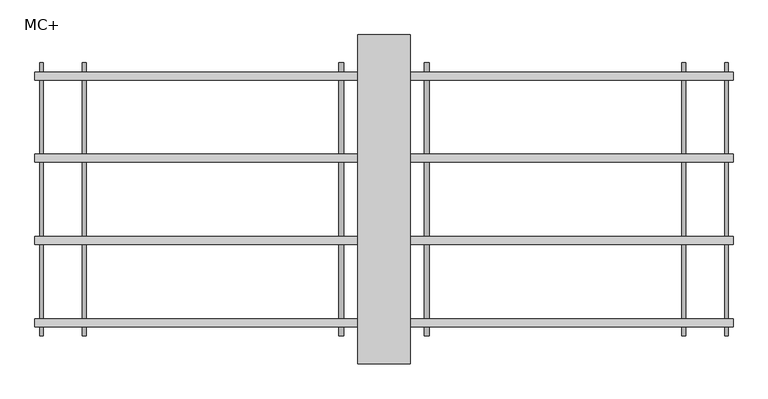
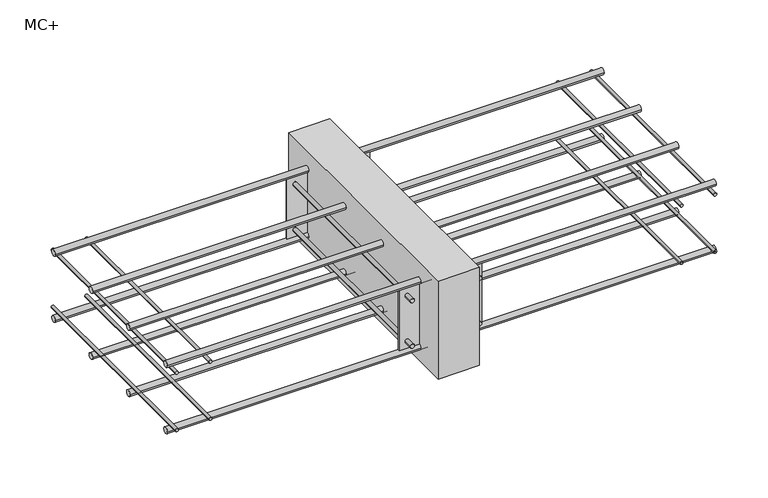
"""IFC4 building model written with IfcOpenShell, lengths in millimetres: proxy geometry, ACINOXplus_Typenreihe_M : MC+."""

import ifcopenshell
import ifcopenshell.guid

model = None  # the IFC model being written
_history = None  # IfcOwnerHistory: only IFC2X3 demands one
_inside = {}  # id of a spatial element -> (the spatial element, [elements in it])
_under = {}  # id of a project, library or spatial element -> (it, [spatial elements below it])
_declared = {}  # id of a project -> (the project, [libraries it declares])
_typed = {}  # id of a type object -> (the type object, [elements of that type])
_made_of = {}  # id of a material, layer set ... -> (it, [elements and type objects made of it])


def new_model(schema):
    """Start an empty IFC model of exactly this schema.

    Asked for "IFC4X3", IfcOpenShell would pick the latest addendum, in which some entities
    have other attributes; the version numbers below select the first issue.
    IFC2X3 requires an IfcOwnerHistory on every rooted entity: one is made here for all.
    """
    global model, _history
    if schema == "IFC4X3":
        model = ifcopenshell.file(schema_version=(4, 3, 0, 0))
    else:
        model = ifcopenshell.file(schema=schema)
    _inside.clear()
    _under.clear()
    _declared.clear()
    _typed.clear()
    _made_of.clear()
    _history = None
    if model.schema == "IFC2X3":
        org = make("IfcOrganization", Name="unknown")
        user = make(
            "IfcPersonAndOrganization",
            ThePerson=make("IfcPerson", FamilyName="unknown"),
            TheOrganization=org,
        )
        app = make(
            "IfcApplication",
            ApplicationDeveloper=org,
            Version="unknown",
            ApplicationFullName="unknown",
            ApplicationIdentifier="unknown",
        )
        _history = make(
            "IfcOwnerHistory",
            OwningUser=user,
            OwningApplication=app,
            ChangeAction="ADDED",
            CreationDate=0,
        )
    return model


def make(cls, **values):
    """One entity of the class cls with the attributes given. An attribute that is None is left unset."""
    return model.create_entity(
        cls, **{name: value for name, value in values.items() if value is not None}
    )


def rooted(cls, **values):
    """An entity with a GlobalId (a new one), such as an element, a storey or a relation."""
    return make(cls, GlobalId=ifcopenshell.guid.new(), OwnerHistory=_history, **values)


def si_unit(unit_type, name, prefix=None):
    """IfcSIUnit, for example si_unit("LENGTHUNIT", "METRE", prefix="MILLI")."""
    return make("IfcSIUnit", UnitType=unit_type, Prefix=prefix, Name=name)


def assignment(units):
    """IfcUnitAssignment: the units of a project."""
    return None if units is None else make("IfcUnitAssignment", Units=units)


def point(xyz):
    """IfcCartesianPoint."""
    return None if xyz is None else make("IfcCartesianPoint", Coordinates=xyz)


def direction(xyz):
    """IfcDirection."""
    return None if xyz is None else make("IfcDirection", DirectionRatios=xyz)


def frame(location, z_axis=None, x_axis=None):
    """IfcAxis2Placement3D, a coordinate frame: its origin and axes. An axis left out is left unset."""
    return make(
        "IfcAxis2Placement3D",
        Location=point(location),
        Axis=direction(z_axis),
        RefDirection=direction(x_axis),
    )


def frame_2d(location, x_axis=None):
    """IfcAxis2Placement2D, a coordinate frame in the plane: its origin and x axis."""
    return make(
        "IfcAxis2Placement2D", Location=point(location), RefDirection=direction(x_axis)
    )


def origin():
    """The frame at (0, 0, 0) with its axes left unset."""
    return frame((0.0, 0.0, 0.0))


def place(relative_to, where):
    """IfcLocalPlacement: puts the frame where relative to a parent placement (None: the world)."""
    return make(
        "IfcLocalPlacement", PlacementRelTo=relative_to, RelativePlacement=where
    )


def context(
    kind, dimensions, precision=None, world=None, true_north=None, identifier=None
):
    """IfcGeometricRepresentationContext, for example the 3D "Model" context."""
    return make(
        "IfcGeometricRepresentationContext",
        ContextIdentifier=identifier,
        ContextType=kind,
        CoordinateSpaceDimension=dimensions,
        Precision=precision,
        WorldCoordinateSystem=world,
        TrueNorth=true_north,
    )


def project(units=None, contexts=None):
    """IfcProject with its units and contexts."""
    return rooted(
        "IfcProject",
        Name="project",
        RepresentationContexts=contexts,
        UnitsInContext=assignment(units),
    )


def spatial(cls, under=None, at=None, **own):
    """A site, building, storey or space (cls), placed at a placement, below another one or the project."""
    s = rooted(cls, ObjectPlacement=at, **own)
    if under is not None:
        _under.setdefault(under.id(), (under, []))[1].append(s)
    return s


def polyline(points):
    """IfcPolyline through the points."""
    return make("IfcPolyline", Points=[point(p) for p in points])


def circle_curve(where, radius):
    """IfcCircle in the frame where."""
    return make("IfcCircle", Position=where, Radius=radius)


def trimmed(basis, trim1, trim2, sense, master):
    """IfcTrimmedCurve: the piece of a basis curve between two trims."""
    return make(
        "IfcTrimmedCurve",
        BasisCurve=basis,
        Trim1=trim1,
        Trim2=trim2,
        SenseAgreement=sense,
        MasterRepresentation=master,
    )


def segment(curve, same_sense, transition):
    """IfcCompositeCurveSegment."""
    return make(
        "IfcCompositeCurveSegment",
        Transition=transition,
        SameSense=same_sense,
        ParentCurve=curve,
    )


def composite_curve(segments, self_intersect=None):
    """IfcCompositeCurve: segments joined end to end."""
    return make("IfcCompositeCurve", Segments=segments, SelfIntersect=self_intersect)


def outline(outer, holes=None, kind="AREA"):
    """IfcArbitraryClosedProfileDef: a profile drawn as a closed curve; with holes, ...WithVoids."""
    if holes is None:
        return make("IfcArbitraryClosedProfileDef", ProfileType=kind, OuterCurve=outer)
    return make(
        "IfcArbitraryProfileDefWithVoids",
        ProfileType=kind,
        OuterCurve=outer,
        InnerCurves=holes,
    )


def extrude(swept, where, along, depth):
    """IfcExtrudedAreaSolid: the profile swept, set in the frame where, extruded along a direction by depth."""
    return make(
        "IfcExtrudedAreaSolid",
        SweptArea=swept,
        Position=where,
        ExtrudedDirection=direction(along),
        Depth=depth,
    )


def shape(context_of_items, identifier, shape_type, items):
    """IfcShapeRepresentation: the items that make up one representation, for example the "Body"."""
    return make(
        "IfcShapeRepresentation",
        ContextOfItems=context_of_items,
        RepresentationIdentifier=identifier,
        RepresentationType=shape_type,
        Items=items,
    )


def source(mapping_origin, context_of_items, identifier, shape_type, items):
    """IfcRepresentationMap: a shape defined once, which mapped items show again and again."""
    return make(
        "IfcRepresentationMap",
        MappingOrigin=mapping_origin,
        MappedRepresentation=shape(context_of_items, identifier, shape_type, items),
    )


def transform(
    local_origin,
    x_axis=None,
    y_axis=None,
    z_axis=None,
    scale=None,
    scale2=None,
    scale3=None,
    uniform=True,
):
    """IfcCartesianTransformationOperator3D, or its non-uniform kind. x_axis, y_axis, z_axis: its Axis1, 2, 3."""
    if uniform:
        return make(
            "IfcCartesianTransformationOperator3D",
            Axis1=direction(x_axis),
            Axis2=direction(y_axis),
            LocalOrigin=point(local_origin),
            Scale=scale,
            Axis3=direction(z_axis),
        )
    return make(
        "IfcCartesianTransformationOperator3DnonUniform",
        Axis1=direction(x_axis),
        Axis2=direction(y_axis),
        LocalOrigin=point(local_origin),
        Scale=scale,
        Axis3=direction(z_axis),
        Scale2=scale2,
        Scale3=scale3,
    )


def mapped(mapping_source, mapping_target):
    """IfcMappedItem: shows the shape of a source again, moved by a transform."""
    return make(
        "IfcMappedItem", MappingSource=mapping_source, MappingTarget=mapping_target
    )


def made_of(thing, what):
    """Note that an element or type object is made of a material, layer set ...; save() writes the relation."""
    if what is not None:
        _made_of.setdefault(what.id(), (what, []))[1].append(thing)
    return thing


def element(
    cls,
    number,
    at=None,
    inside=None,
    cuts=None,
    type_object=None,
    material=None,
    context=None,
    identifier="Body",
    shape_type=None,
    held_by="IfcProductDefinitionShape",
    body=None,
    shapes=None,
    **own,
):
    """One element of the class cls, such as IfcWall. Its Tag is "e" and its number.

    at: its placement. inside: the storey or other place that contains it. cuts: it is an
    opening in that element (IfcRelVoidsElement). A single representation is given by context,
    identifier, shape_type and body (its items); several are given by shapes. held_by: the class
    of the entity that holds the representations. save() writes the other relations.
    """
    e = rooted(cls, Tag="e%d" % number, ObjectPlacement=at, **own)
    if body is not None:
        shapes = [shape(context, identifier, shape_type, body)]
    if shapes is not None:
        e.Representation = make(held_by, Representations=shapes)
    if inside is not None:
        _inside.setdefault(inside.id(), (inside, []))[1].append(e)
    if cuts is not None:
        rooted(
            "IfcRelVoidsElement", RelatingBuildingElement=cuts, RelatedOpeningElement=e
        )
    if type_object is not None:
        _typed.setdefault(type_object.id(), (type_object, []))[1].append(e)
    return made_of(e, material)


def aggregate(whole, parts):
    """IfcRelAggregates: a whole, such as a stair, and the parts it consists of."""
    return rooted("IfcRelAggregates", RelatingObject=whole, RelatedObjects=parts)


def save(model, path):
    """Write the relations noted so far, then the file.

    IfcRelAggregates (storeys below a building ...), IfcRelContainedInSpatialStructure (elements
    in a storey), IfcRelDefinesByType, IfcRelAssociatesMaterial and IfcRelDeclares: one each for
    every whole, place, type object, material and project.
    """
    for whole, parts in _under.values():
        aggregate(whole, parts)
    for where, things in _inside.values():
        rooted(
            "IfcRelContainedInSpatialStructure",
            RelatedElements=things,
            RelatingStructure=where,
        )
    for kind, things in _typed.values():
        rooted("IfcRelDefinesByType", RelatedObjects=things, RelatingType=kind)
    for what, things in _made_of.values():
        rooted("IfcRelAssociatesMaterial", RelatedObjects=things, RelatingMaterial=what)
    for by, libraries in _declared.values():
        rooted("IfcRelDeclares", RelatingContext=by, RelatedDefinitions=libraries)
    model.write(path)


def mc_d7af227e(model_context):
    return source(origin(), model_context, "Body", "SweptSolid", [
        extrude(outline(polyline([(40.0, 250.0), (40.0, -250.0), (-40.0, -250.0), (-40.0, 250.0), (40.0, 250.0)])), frame((0.0, 0.0, -200.0), z_axis=(0.0, 0.0, 1.0), x_axis=(1.0, 0.0, 0.0)), (0.0, 0.0, 1.0), 200.0),
        extrude(outline(polyline([(80.0, -186.0), (80.0, -189.0), (-80.0, -189.0), (-80.0, -186.0), (80.0, -186.0)])), frame((0.0, 0.0, -165.0), z_axis=(0.0, 0.0, 1.0), x_axis=(1.0, 0.0, 0.0)), (0.0, 0.0, 1.0), 123.0),
        extrude(outline(polyline([(80.0, 189.0), (80.0, 186.0), (-80.0, 186.0), (-80.0, 189.0), (80.0, 189.0)])), frame((0.0, 0.0, -165.0), z_axis=(0.0, 0.0, 1.0), x_axis=(1.0, 0.0, 0.0)), (0.0, 0.0, 1.0), 123.0),
        extrude(outline(composite_curve([segment(trimmed(circle_curve(frame_2d((-150.0, -65.0)), 4.0), [point((-150.0, -69.0))], [point((-150.0, -61.0))], False, "CARTESIAN"), True, "CONTINUOUS"), segment(trimmed(circle_curve(frame_2d((-150.0, -65.0)), 4.0), [point((-150.0, -61.0))], [point((-150.0, -69.0))], False, "CARTESIAN"), True, "CONTINUOUS")], self_intersect=False)), frame((0.0, 189.0, 0.0), z_axis=(0.0, 1.0, 0.0), x_axis=(0.0, 0.0, 1.0)), (0.0, 0.0, 1.0), 18.5),
        extrude(outline(composite_curve([segment(trimmed(circle_curve(frame_2d((-150.0, -65.0)), 4.0), [point((-150.0, -61.0))], [point((-150.0, -69.0))], False, "CARTESIAN"), True, "CONTINUOUS"), segment(trimmed(circle_curve(frame_2d((-150.0, -65.0)), 4.0), [point((-150.0, -69.0))], [point((-150.0, -61.0))], False, "CARTESIAN"), True, "CONTINUOUS")], self_intersect=False)), frame((0.0, -207.5, 0.0), z_axis=(0.0, 1.0, 0.0), x_axis=(0.0, 0.0, 1.0)), (0.0, 0.0, 1.0), 18.5),
        extrude(outline(composite_curve([segment(trimmed(circle_curve(frame_2d((-150.0, -65.0)), 4.0), [point((-150.0, -69.0))], [point((-150.0, -61.0))], False, "CARTESIAN"), True, "CONTINUOUS"), segment(trimmed(circle_curve(frame_2d((-150.0, -65.0)), 4.0), [point((-150.0, -61.0))], [point((-150.0, -69.0))], False, "CARTESIAN"), True, "CONTINUOUS")], self_intersect=False)), frame((0.0, -186.0, 0.0), z_axis=(0.0, 1.0, 0.0), x_axis=(0.0, 0.0, 1.0)), (0.0, 0.0, 1.0), 372.0),
        extrude(outline(composite_curve([segment(trimmed(circle_curve(frame_2d((-150.0, 65.0)), 4.0), [point((-150.0, 61.0))], [point((-150.0, 69.0))], False, "CARTESIAN"), True, "CONTINUOUS"), segment(trimmed(circle_curve(frame_2d((-150.0, 65.0)), 4.0), [point((-150.0, 69.0))], [point((-150.0, 61.0))], False, "CARTESIAN"), True, "CONTINUOUS")], self_intersect=False)), frame((0.0, 189.0, 0.0), z_axis=(0.0, 1.0, 0.0), x_axis=(0.0, 0.0, 1.0)), (0.0, 0.0, 1.0), 18.5),
        extrude(outline(composite_curve([segment(trimmed(circle_curve(frame_2d((-150.0, 65.0)), 4.0), [point((-150.0, 69.0))], [point((-150.0, 61.0))], False, "CARTESIAN"), True, "CONTINUOUS"), segment(trimmed(circle_curve(frame_2d((-150.0, 65.0)), 4.0), [point((-150.0, 61.0))], [point((-150.0, 69.0))], False, "CARTESIAN"), True, "CONTINUOUS")], self_intersect=False)), frame((0.0, -207.5, 0.0), z_axis=(0.0, 1.0, 0.0), x_axis=(0.0, 0.0, 1.0)), (0.0, 0.0, 1.0), 18.5),
        extrude(outline(composite_curve([segment(trimmed(circle_curve(frame_2d((-150.0, 65.0)), 4.0), [point((-150.0, 61.0))], [point((-150.0, 69.0))], False, "CARTESIAN"), True, "CONTINUOUS"), segment(trimmed(circle_curve(frame_2d((-150.0, 65.0)), 4.0), [point((-150.0, 69.0))], [point((-150.0, 61.0))], False, "CARTESIAN"), True, "CONTINUOUS")], self_intersect=False)), frame((0.0, -186.0, 0.0), z_axis=(0.0, 1.0, 0.0), x_axis=(0.0, 0.0, 1.0)), (0.0, 0.0, 1.0), 372.0),
        extrude(outline(composite_curve([segment(trimmed(circle_curve(frame_2d((-57.0, -65.0)), 4.0), [point((-57.0, -69.0))], [point((-57.0, -61.0))], False, "CARTESIAN"), True, "CONTINUOUS"), segment(trimmed(circle_curve(frame_2d((-57.0, -65.0)), 4.0), [point((-57.0, -61.0))], [point((-57.0, -69.0))], False, "CARTESIAN"), True, "CONTINUOUS")], self_intersect=False)), frame((0.0, 189.0, 0.0), z_axis=(0.0, 1.0, 0.0), x_axis=(0.0, 0.0, 1.0)), (0.0, 0.0, 1.0), 18.5),
        extrude(outline(composite_curve([segment(trimmed(circle_curve(frame_2d((-57.0, -65.0)), 4.0), [point((-57.0, -61.0))], [point((-57.0, -69.0))], False, "CARTESIAN"), True, "CONTINUOUS"), segment(trimmed(circle_curve(frame_2d((-57.0, -65.0)), 4.0), [point((-57.0, -69.0))], [point((-57.0, -61.0))], False, "CARTESIAN"), True, "CONTINUOUS")], self_intersect=False)), frame((0.0, -207.5, 0.0), z_axis=(0.0, 1.0, 0.0), x_axis=(0.0, 0.0, 1.0)), (0.0, 0.0, 1.0), 18.5),
        extrude(outline(composite_curve([segment(trimmed(circle_curve(frame_2d((-57.0, -65.0)), 4.0), [point((-57.0, -69.0))], [point((-57.0, -61.0))], False, "CARTESIAN"), True, "CONTINUOUS"), segment(trimmed(circle_curve(frame_2d((-57.0, -65.0)), 4.0), [point((-57.0, -61.0))], [point((-57.0, -69.0))], False, "CARTESIAN"), True, "CONTINUOUS")], self_intersect=False)), frame((0.0, -186.0, 0.0), z_axis=(0.0, 1.0, 0.0), x_axis=(0.0, 0.0, 1.0)), (0.0, 0.0, 1.0), 372.0),
        extrude(outline(composite_curve([segment(trimmed(circle_curve(frame_2d((-57.0, 65.0)), 4.0), [point((-57.0, 61.0))], [point((-57.0, 69.0))], False, "CARTESIAN"), True, "CONTINUOUS"), segment(trimmed(circle_curve(frame_2d((-57.0, 65.0)), 4.0), [point((-57.0, 69.0))], [point((-57.0, 61.0))], False, "CARTESIAN"), True, "CONTINUOUS")], self_intersect=False)), frame((0.0, 189.0, 0.0), z_axis=(0.0, 1.0, 0.0), x_axis=(0.0, 0.0, 1.0)), (0.0, 0.0, 1.0), 18.5),
        extrude(outline(composite_curve([segment(trimmed(circle_curve(frame_2d((-57.0, 65.0)), 4.0), [point((-57.0, 69.0))], [point((-57.0, 61.0))], False, "CARTESIAN"), True, "CONTINUOUS"), segment(trimmed(circle_curve(frame_2d((-57.0, 65.0)), 4.0), [point((-57.0, 61.0))], [point((-57.0, 69.0))], False, "CARTESIAN"), True, "CONTINUOUS")], self_intersect=False)), frame((0.0, -207.5, 0.0), z_axis=(0.0, 1.0, 0.0), x_axis=(0.0, 0.0, 1.0)), (0.0, 0.0, 1.0), 18.5),
        extrude(outline(composite_curve([segment(trimmed(circle_curve(frame_2d((-57.0, 65.0)), 4.0), [point((-57.0, 61.0))], [point((-57.0, 69.0))], False, "CARTESIAN"), True, "CONTINUOUS"), segment(trimmed(circle_curve(frame_2d((-57.0, 65.0)), 4.0), [point((-57.0, 69.0))], [point((-57.0, 61.0))], False, "CARTESIAN"), True, "CONTINUOUS")], self_intersect=False)), frame((0.0, -186.0, 0.0), z_axis=(0.0, 1.0, 0.0), x_axis=(0.0, 0.0, 1.0)), (0.0, 0.0, 1.0), 372.0),
        extrude(outline(composite_curve([segment(trimmed(circle_curve(frame_2d((62.5, -171.0)), 6.0), [point((56.5, -171.0))], [point((68.5, -171.0))], False, "CARTESIAN"), True, "CONTINUOUS"), segment(trimmed(circle_curve(frame_2d((62.5, -171.0)), 6.0), [point((68.5, -171.0))], [point((56.5, -171.0))], False, "CARTESIAN"), True, "CONTINUOUS")], self_intersect=False)), frame((-530.0, 0.0, 0.0), z_axis=(1.0, 0.0, 0.0), x_axis=(0.0, 1.0, 0.0)), (0.0, 0.0, 1.0), 1060.0),
        extrude(outline(composite_curve([segment(trimmed(circle_curve(frame_2d((187.5, -171.0)), 6.0), [point((181.5, -171.0))], [point((193.5, -171.0))], False, "CARTESIAN"), True, "CONTINUOUS"), segment(trimmed(circle_curve(frame_2d((187.5, -171.0)), 6.0), [point((193.5, -171.0))], [point((181.5, -171.0))], False, "CARTESIAN"), True, "CONTINUOUS")], self_intersect=False)), frame((-530.0, 0.0, 0.0), z_axis=(1.0, 0.0, 0.0), x_axis=(0.0, 1.0, 0.0)), (0.0, 0.0, 1.0), 1060.0),
        extrude(outline(composite_curve([segment(trimmed(circle_curve(frame_2d((-62.5, -171.0)), 6.0), [point((-68.5, -171.0))], [point((-56.5, -171.0))], False, "CARTESIAN"), True, "CONTINUOUS"), segment(trimmed(circle_curve(frame_2d((-62.5, -171.0)), 6.0), [point((-56.5, -171.0))], [point((-68.5, -171.0))], False, "CARTESIAN"), True, "CONTINUOUS")], self_intersect=False)), frame((-530.0, 0.0, 0.0), z_axis=(1.0, 0.0, 0.0), x_axis=(0.0, 1.0, 0.0)), (0.0, 0.0, 1.0), 1060.0),
        extrude(outline(composite_curve([segment(trimmed(circle_curve(frame_2d((-187.5, -171.0)), 6.0), [point((-193.5, -171.0))], [point((-181.5, -171.0))], False, "CARTESIAN"), True, "CONTINUOUS"), segment(trimmed(circle_curve(frame_2d((-187.5, -171.0)), 6.0), [point((-181.5, -171.0))], [point((-193.5, -171.0))], False, "CARTESIAN"), True, "CONTINUOUS")], self_intersect=False)), frame((-530.0, 0.0, 0.0), z_axis=(1.0, 0.0, 0.0), x_axis=(0.0, 1.0, 0.0)), (0.0, 0.0, 1.0), 1060.0),
        extrude(outline(composite_curve([segment(trimmed(circle_curve(frame_2d((62.5, -36.0)), 6.0), [point((56.5, -36.0))], [point((68.5, -36.0))], False, "CARTESIAN"), True, "CONTINUOUS"), segment(trimmed(circle_curve(frame_2d((62.5, -36.0)), 6.0), [point((68.5, -36.0))], [point((56.5, -36.0))], False, "CARTESIAN"), True, "CONTINUOUS")], self_intersect=False)), frame((-530.0, 0.0, 0.0), z_axis=(1.0, 0.0, 0.0), x_axis=(0.0, 1.0, 0.0)), (0.0, 0.0, 1.0), 1060.0),
        extrude(outline(composite_curve([segment(trimmed(circle_curve(frame_2d((187.5, -36.0)), 6.0), [point((181.5, -36.0))], [point((193.5, -36.0))], False, "CARTESIAN"), True, "CONTINUOUS"), segment(trimmed(circle_curve(frame_2d((187.5, -36.0)), 6.0), [point((193.5, -36.0))], [point((181.5, -36.0))], False, "CARTESIAN"), True, "CONTINUOUS")], self_intersect=False)), frame((-530.0, 0.0, 0.0), z_axis=(1.0, 0.0, 0.0), x_axis=(0.0, 1.0, 0.0)), (0.0, 0.0, 1.0), 1060.0),
        extrude(outline(composite_curve([segment(trimmed(circle_curve(frame_2d((-62.5, -36.0)), 6.0), [point((-68.5, -36.0))], [point((-56.5, -36.0))], False, "CARTESIAN"), True, "CONTINUOUS"), segment(trimmed(circle_curve(frame_2d((-62.5, -36.0)), 6.0), [point((-56.5, -36.0))], [point((-68.5, -36.0))], False, "CARTESIAN"), True, "CONTINUOUS")], self_intersect=False)), frame((-530.0, 0.0, 0.0), z_axis=(1.0, 0.0, 0.0), x_axis=(0.0, 1.0, 0.0)), (0.0, 0.0, 1.0), 1060.0),
        extrude(outline(composite_curve([segment(trimmed(circle_curve(frame_2d((-187.5, -36.0)), 6.0), [point((-193.5, -36.0))], [point((-181.5, -36.0))], False, "CARTESIAN"), True, "CONTINUOUS"), segment(trimmed(circle_curve(frame_2d((-187.5, -36.0)), 6.0), [point((-181.5, -36.0))], [point((-193.5, -36.0))], False, "CARTESIAN"), True, "CONTINUOUS")], self_intersect=False)), frame((-530.0, 0.0, 0.0), z_axis=(1.0, 0.0, 0.0), x_axis=(0.0, 1.0, 0.0)), (0.0, 0.0, 1.0), 1060.0),
        extrude(outline(composite_curve([segment(trimmed(circle_curve(frame_2d((-162.0, -520.0)), 3.0), [point((-162.0, -517.0))], [point((-162.0, -523.0))], False, "CARTESIAN"), True, "CONTINUOUS"), segment(trimmed(circle_curve(frame_2d((-162.0, -520.0)), 3.0), [point((-162.0, -523.0))], [point((-162.0, -517.0))], False, "CARTESIAN"), True, "CONTINUOUS")], self_intersect=False)), frame((0.0, -207.5, 0.0), z_axis=(0.0, 1.0, 0.0), x_axis=(0.0, 0.0, 1.0)), (0.0, 0.0, 1.0), 415.0),
        extrude(outline(composite_curve([segment(trimmed(circle_curve(frame_2d((-162.0, -455.0)), 3.0), [point((-162.0, -452.0))], [point((-162.0, -458.0))], False, "CARTESIAN"), True, "CONTINUOUS"), segment(trimmed(circle_curve(frame_2d((-162.0, -455.0)), 3.0), [point((-162.0, -458.0))], [point((-162.0, -452.0))], False, "CARTESIAN"), True, "CONTINUOUS")], self_intersect=False)), frame((0.0, -207.5, 0.0), z_axis=(0.0, 1.0, 0.0), x_axis=(0.0, 0.0, 1.0)), (0.0, 0.0, 1.0), 415.0),
        extrude(outline(composite_curve([segment(trimmed(circle_curve(frame_2d((-162.0, 455.0)), 3.0), [point((-162.0, 458.0))], [point((-162.0, 452.0))], False, "CARTESIAN"), True, "CONTINUOUS"), segment(trimmed(circle_curve(frame_2d((-162.0, 455.0)), 3.0), [point((-162.0, 452.0))], [point((-162.0, 458.0))], False, "CARTESIAN"), True, "CONTINUOUS")], self_intersect=False)), frame((0.0, -207.5, 0.0), z_axis=(0.0, 1.0, 0.0), x_axis=(0.0, 0.0, 1.0)), (0.0, 0.0, 1.0), 415.0),
        extrude(outline(composite_curve([segment(trimmed(circle_curve(frame_2d((-162.0, 520.0)), 3.0), [point((-162.0, 523.0))], [point((-162.0, 517.0))], False, "CARTESIAN"), True, "CONTINUOUS"), segment(trimmed(circle_curve(frame_2d((-162.0, 520.0)), 3.0), [point((-162.0, 517.0))], [point((-162.0, 523.0))], False, "CARTESIAN"), True, "CONTINUOUS")], self_intersect=False)), frame((0.0, -207.5, 0.0), z_axis=(0.0, 1.0, 0.0), x_axis=(0.0, 0.0, 1.0)), (0.0, 0.0, 1.0), 415.0),
        extrude(outline(composite_curve([segment(trimmed(circle_curve(frame_2d((-45.0, 455.0)), 3.0), [point((-45.0, 458.0))], [point((-45.0, 452.0))], False, "CARTESIAN"), True, "CONTINUOUS"), segment(trimmed(circle_curve(frame_2d((-45.0, 455.0)), 3.0), [point((-45.0, 452.0))], [point((-45.0, 458.0))], False, "CARTESIAN"), True, "CONTINUOUS")], self_intersect=False)), frame((0.0, -207.5, 0.0), z_axis=(0.0, 1.0, 0.0), x_axis=(0.0, 0.0, 1.0)), (0.0, 0.0, 1.0), 415.0),
        extrude(outline(composite_curve([segment(trimmed(circle_curve(frame_2d((-45.0, 520.0)), 3.0), [point((-45.0, 523.0))], [point((-45.0, 517.0))], False, "CARTESIAN"), True, "CONTINUOUS"), segment(trimmed(circle_curve(frame_2d((-45.0, 520.0)), 3.0), [point((-45.0, 517.0))], [point((-45.0, 523.0))], False, "CARTESIAN"), True, "CONTINUOUS")], self_intersect=False)), frame((0.0, -207.5, 0.0), z_axis=(0.0, 1.0, 0.0), x_axis=(0.0, 0.0, 1.0)), (0.0, 0.0, 1.0), 415.0),
        extrude(outline(composite_curve([segment(trimmed(circle_curve(frame_2d((-45.0, -520.0)), 3.0), [point((-45.0, -517.0))], [point((-45.0, -523.0))], False, "CARTESIAN"), True, "CONTINUOUS"), segment(trimmed(circle_curve(frame_2d((-45.0, -520.0)), 3.0), [point((-45.0, -523.0))], [point((-45.0, -517.0))], False, "CARTESIAN"), True, "CONTINUOUS")], self_intersect=False)), frame((0.0, -207.5, 0.0), z_axis=(0.0, 1.0, 0.0), x_axis=(0.0, 0.0, 1.0)), (0.0, 0.0, 1.0), 415.0),
        extrude(outline(composite_curve([segment(trimmed(circle_curve(frame_2d((-45.0, -455.0)), 3.0), [point((-45.0, -452.0))], [point((-45.0, -458.0))], False, "CARTESIAN"), True, "CONTINUOUS"), segment(trimmed(circle_curve(frame_2d((-45.0, -455.0)), 3.0), [point((-45.0, -458.0))], [point((-45.0, -452.0))], False, "CARTESIAN"), True, "CONTINUOUS")], self_intersect=False)), frame((0.0, -207.5, 0.0), z_axis=(0.0, 1.0, 0.0), x_axis=(0.0, 0.0, 1.0)), (0.0, 0.0, 1.0), 415.0),
    ])


if __name__ == "__main__":
    model = new_model("IFC4")
    model_context = context("Model", 3, world=origin())
    ifc_project = project(units=[si_unit("LENGTHUNIT", "METRE", prefix="MILLI")], contexts=[model_context])
    site = spatial("IfcSite", under=ifc_project)
    building = spatial("IfcBuilding", under=site)
    placement = place(None, origin())
    mc_shape = mc_d7af227e(model_context)
    element("IfcBuildingElementProxy", 1, Name="ACINOXplus_Typenreihe_M : MC+", ObjectType="ACINOXplus_Typenreihe_M : MC+", at=placement, inside=building, context=model_context, shape_type="MappedRepresentation", body=[
        mapped(mc_shape, transform((0.0, 0.0, 0.0), x_axis=(1.0, 0.0, 0.0), y_axis=(0.0, 1.0, 0.0), z_axis=(0.0, 0.0, 1.0))),
    ])
    save(model, "model.ifc")
